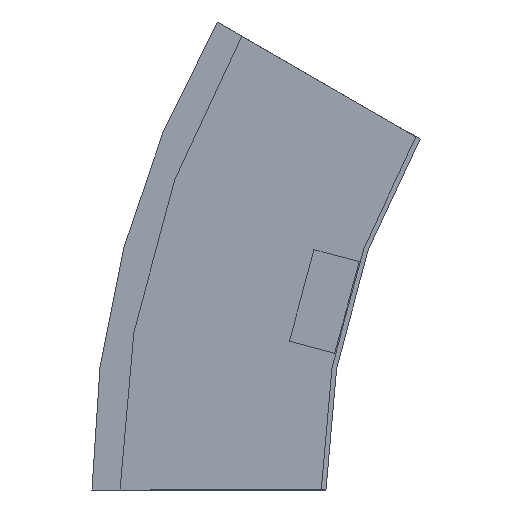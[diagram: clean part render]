
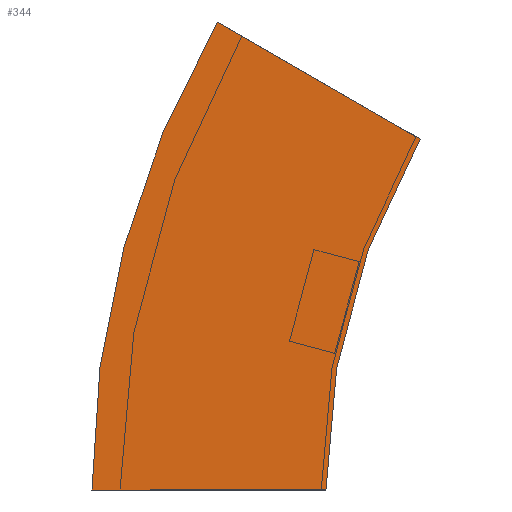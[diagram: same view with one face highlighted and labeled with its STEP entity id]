
A CAD part, left-side view. The second image highlights one B-rep face of the part: STEP entity #344.
In plain terms, the highlighted planar face has unit normal (-1, 0, 0) as drawn and (1, 0, 0) by its records, which use the part's own axes.
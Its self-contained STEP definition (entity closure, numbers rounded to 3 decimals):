
#1 = LINE ( 'NONE', #108, #92 ) ;
#39 = AXIS2_PLACEMENT_3D ( 'NONE', #223, #520, #533 ) ;
#41 = CARTESIAN_POINT ( 'NONE',  ( 0., -300., 0. ) ) ;
#54 = VERTEX_POINT ( 'NONE', #293 ) ;
#81 = ORIENTED_EDGE ( 'NONE', *, *, #422, .T. ) ;
#92 = VECTOR ( 'NONE', #431, 1000. ) ;
#108 = CARTESIAN_POINT ( 'NONE',  ( 0., 0., 0. ) ) ;
#145 = EDGE_CURVE ( 'NONE', #181, #400, #470, .T. ) ;
#154 = CIRCLE ( 'NONE', #531, 400. ) ;
#155 = PLANE ( 'NONE',  #562 ) ;
#181 = VERTEX_POINT ( 'NONE', #265 ) ;
#223 = CARTESIAN_POINT ( 'NONE',  ( 0., -300., 0. ) ) ;
#224 = EDGE_CURVE ( 'NONE', #181, #558, #1, .T. ) ;
#228 = ORIENTED_EDGE ( 'NONE', *, *, #145, .F. ) ;
#233 = EDGE_LOOP ( 'NONE', ( #81, #540, #228, #438 ) ) ;
#248 = DIRECTION ( 'NONE',  ( 0., 0., -1. ) ) ;
#265 = CARTESIAN_POINT ( 'NONE',  ( 0., 0., 0. ) ) ;
#293 = CARTESIAN_POINT ( 'NONE',  ( 0., 46.41, 200. ) ) ;
#319 = VECTOR ( 'NONE', #506, 1000. ) ;
#330 = CARTESIAN_POINT ( 'NONE',  ( 0., 0., 0. ) ) ;
#334 = LINE ( 'NONE', #337, #319 ) ;
#337 = CARTESIAN_POINT ( 'NONE',  ( 0., -40.192, 150. ) ) ;
#338 = FACE_OUTER_BOUND ( 'NONE', #233, .T. ) ;
#344 = ADVANCED_FACE ( 'NONE', ( #338 ), #155, .T. ) ;
#349 = DIRECTION ( 'NONE',  ( 0., 1., 0. ) ) ;
#371 = DIRECTION ( 'NONE',  ( 1., 0., 0. ) ) ;
#380 = EDGE_CURVE ( 'NONE', #400, #54, #334, .T. ) ;
#400 = VERTEX_POINT ( 'NONE', #522 ) ;
#422 = EDGE_CURVE ( 'NONE', #558, #54, #154, .T. ) ;
#431 = DIRECTION ( 'NONE',  ( 0., 1., 0. ) ) ;
#438 = ORIENTED_EDGE ( 'NONE', *, *, #224, .T. ) ;
#470 = CIRCLE ( 'NONE', #39, 300. ) ;
#506 = DIRECTION ( 'NONE',  ( 0., 0.866, 0.5 ) ) ;
#516 = DIRECTION ( 'NONE',  ( 1., 0., 0. ) ) ;
#520 = DIRECTION ( 'NONE',  ( 1., 0., 0. ) ) ;
#522 = CARTESIAN_POINT ( 'NONE',  ( 0., -40.192, 150. ) ) ;
#531 = AXIS2_PLACEMENT_3D ( 'NONE', #41, #516, #349 ) ;
#533 = DIRECTION ( 'NONE',  ( 0., 1., 0. ) ) ;
#534 = CARTESIAN_POINT ( 'NONE',  ( 0., 100., 0. ) ) ;
#540 = ORIENTED_EDGE ( 'NONE', *, *, #380, .F. ) ;
#558 = VERTEX_POINT ( 'NONE', #534 ) ;
#562 = AXIS2_PLACEMENT_3D ( 'NONE', #330, #371, #248 ) ;
